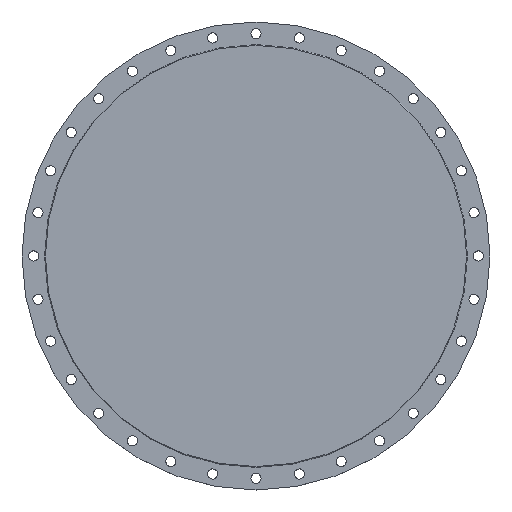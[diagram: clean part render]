
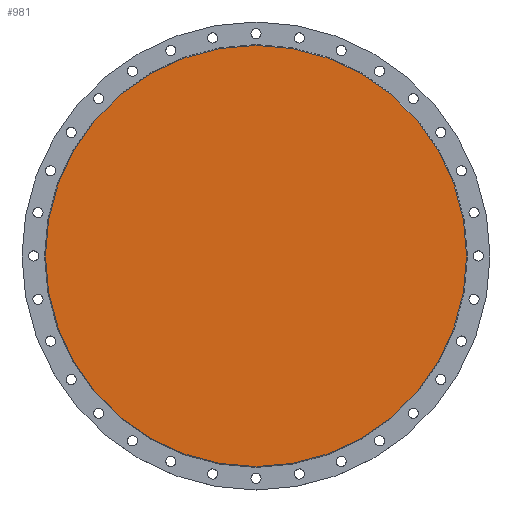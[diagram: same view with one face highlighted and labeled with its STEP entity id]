
A CAD part, top view. The second image highlights one B-rep face of the part: STEP entity #981.
In plain terms, the highlighted planar face has unit normal (0, 0, 1).
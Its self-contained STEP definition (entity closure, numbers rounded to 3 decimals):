
#82=PLANE('',#1142);
#119=FACE_OUTER_BOUND('',#189,.T.);
#189=EDGE_LOOP('',(#845,#846));
#391=CIRCLE('',#1137,810.);
#392=CIRCLE('',#1138,810.);
#495=VERTEX_POINT('',#1729);
#496=VERTEX_POINT('',#1730);
#631=EDGE_CURVE('',#495,#496,#391,.T.);
#632=EDGE_CURVE('',#496,#495,#392,.T.);
#845=ORIENTED_EDGE('',*,*,#631,.T.);
#846=ORIENTED_EDGE('',*,*,#632,.T.);
#981=ADVANCED_FACE('',(#119),#82,.T.);
#1137=AXIS2_PLACEMENT_3D('',#1731,#1446,#1447);
#1138=AXIS2_PLACEMENT_3D('',#1732,#1448,#1449);
#1142=AXIS2_PLACEMENT_3D('',#1740,#1458,#1459);
#1446=DIRECTION('center_axis',(0.,0.,1.));
#1447=DIRECTION('ref_axis',(1.,0.,0.));
#1448=DIRECTION('center_axis',(0.,0.,1.));
#1449=DIRECTION('ref_axis',(1.,0.,0.));
#1458=DIRECTION('center_axis',(0.,0.,1.));
#1459=DIRECTION('ref_axis',(1.,0.,0.));
#1729=CARTESIAN_POINT('',(810.,0.,0.));
#1730=CARTESIAN_POINT('',(-810.,0.,0.));
#1731=CARTESIAN_POINT('Origin',(0.,0.,0.));
#1732=CARTESIAN_POINT('Origin',(0.,0.,0.));
#1740=CARTESIAN_POINT('Origin',(0.,0.,0.));
